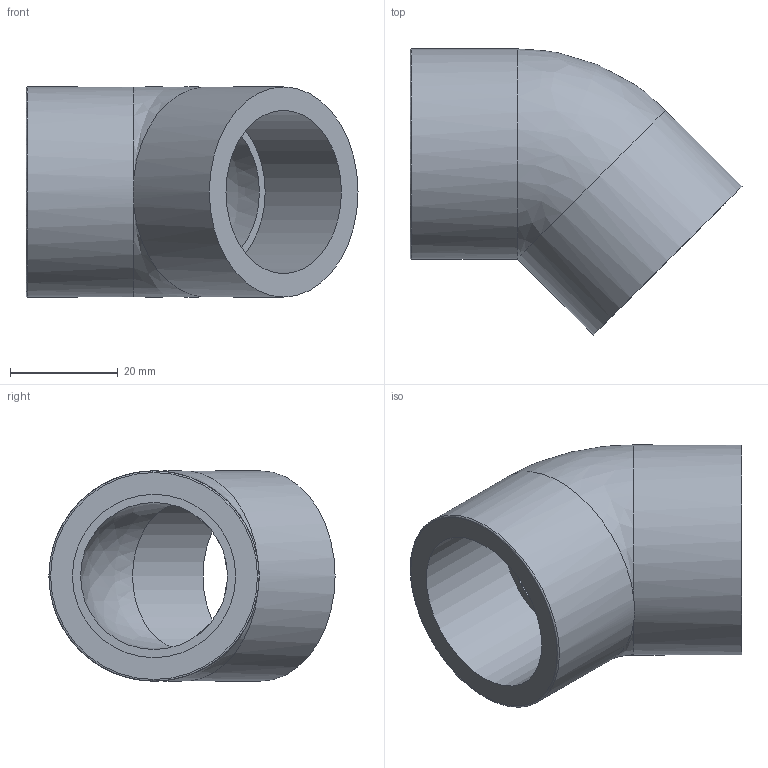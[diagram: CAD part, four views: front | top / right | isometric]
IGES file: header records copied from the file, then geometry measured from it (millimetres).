
Global section: file name: 054501010.ipt; native system: Autodesk Inventor 2015; preprocessor: unknown; author: KIM; date: 20180927.115358; units: millimetre
Bounding box: 61.59 x 53.09 x 39 mm (x, y, z)
Volume: 28501.1 mm3; surface area: 13075.2 mm2
Topology: 1 solids, 1 shells, 11 faces, 26 edges, 17 vertices
Faces by surface type: revolution 4, plane 4, cylinder 2, bspline 1
Full cylindrical faces by diameter (mm): 39 x2
